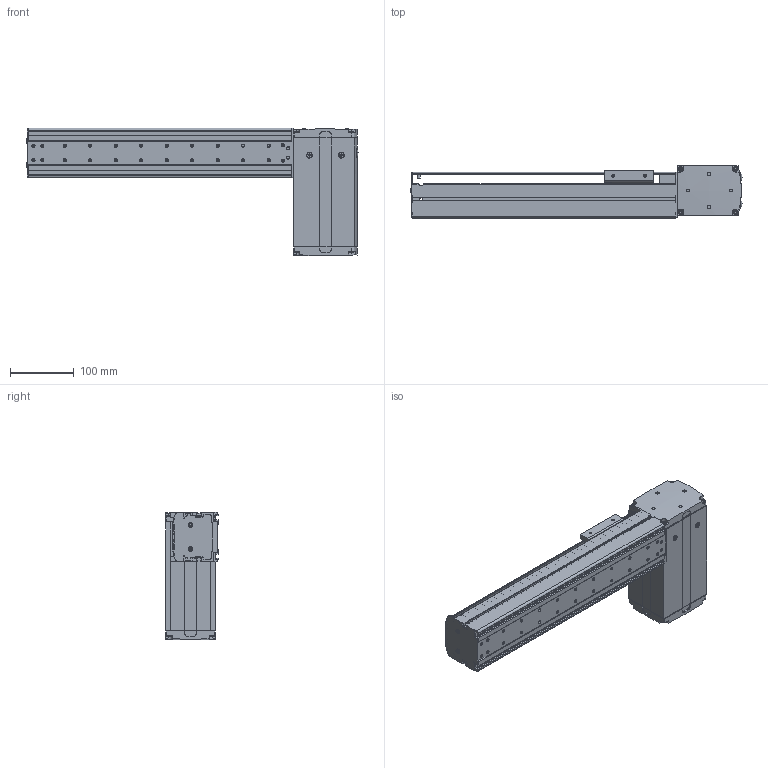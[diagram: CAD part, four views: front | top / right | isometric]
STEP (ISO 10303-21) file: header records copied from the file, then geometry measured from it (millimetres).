
FILE_DESCRIPTION((''),'2;1');
FILE_NAME('BE10_-BL-S_N-25_IGS_PRT','2017-06-18T',(' '),(''),'PRO/ENGINEER BY PARAMETRIC TECHNOLOGY CORPORATION, 2015030','PRO/ENGINEER BY PARAMETRIC TECHNOLOGY CORPORATION, 2015030','');
FILE_SCHEMA(('CONFIG_CONTROL_DESIGN'));
Length unit declared in the file: millimetre
Products named in the file (1): BE10_-BL-S_N-25_IGS_PRT
Bounding box: 520.8 x 82.5 x 200.5 mm (x, y, z)
Volume: 801395.5 mm3; surface area: 571161 mm2
Topology: 3 solids, 104 shells, 1908 faces, 5205 edges, 3403 vertices
Faces by surface type: plane 963, cylinder 782, cone 103, sphere 30, torus 27, bspline 3
Entity records: 61807 total; most frequent: CARTESIAN_POINT 12564, DIRECTION 10418, ORIENTED_EDGE 9966, EDGE_CURVE 5151, AXIS2_PLACEMENT_3D 3657, VERTEX_POINT 3403, VECTOR 3104, LINE 3104
